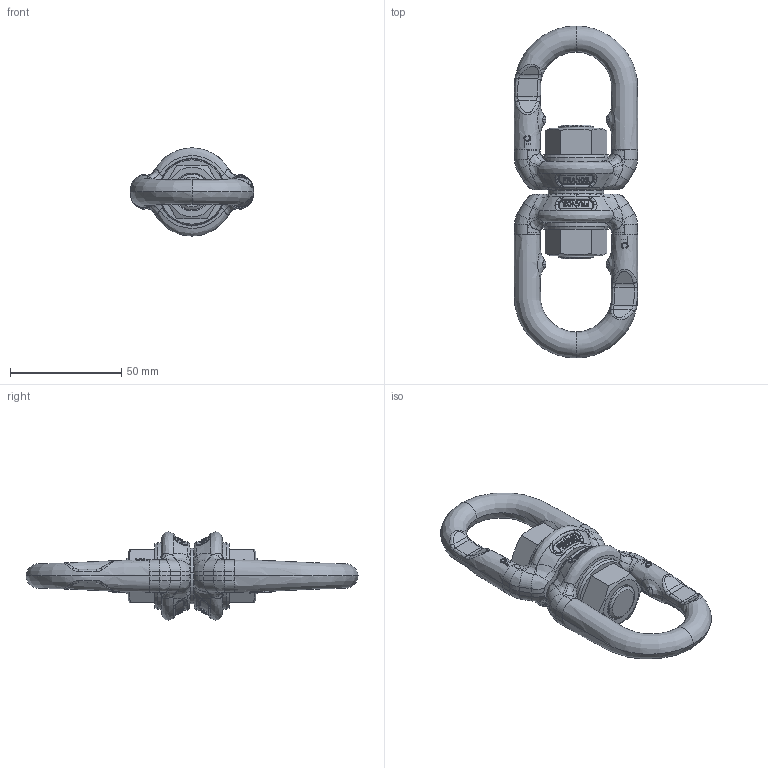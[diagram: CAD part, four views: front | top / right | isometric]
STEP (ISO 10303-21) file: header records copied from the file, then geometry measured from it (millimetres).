
FILE_DESCRIPTION(('STEP AP203'),'1');
FILE_NAME('gpelr0.stp','2022-03-08T15:50:37',('TraceParts'),('TraceParts S.A.'),'Spatial InterOp 3D',' ',' ');
FILE_SCHEMA(('CONFIG_CONTROL_DESIGN'));
Length unit declared in the file: millimetre
Products named in the file (1): 1
Bounding box: 55.5 x 149.4 x 39.64 mm (x, y, z)
Volume: 77428.4 mm3; surface area: 35249.6 mm2
Topology: 11 solids, 11 shells, 956 faces, 2406 edges, 1512 vertices
Faces by surface type: bspline 332, plane 308, cone 138, cylinder 118, torus 52, sphere 8
Entity records: 63030 total; most frequent: CARTESIAN_POINT 42277, ORIENTED_EDGE 4812, DIRECTION 3696, EDGE_CURVE 2406, AXIS2_PLACEMENT_3D 1517, VERTEX_POINT 1512, EDGE_LOOP 1020, ADVANCED_FACE 956
